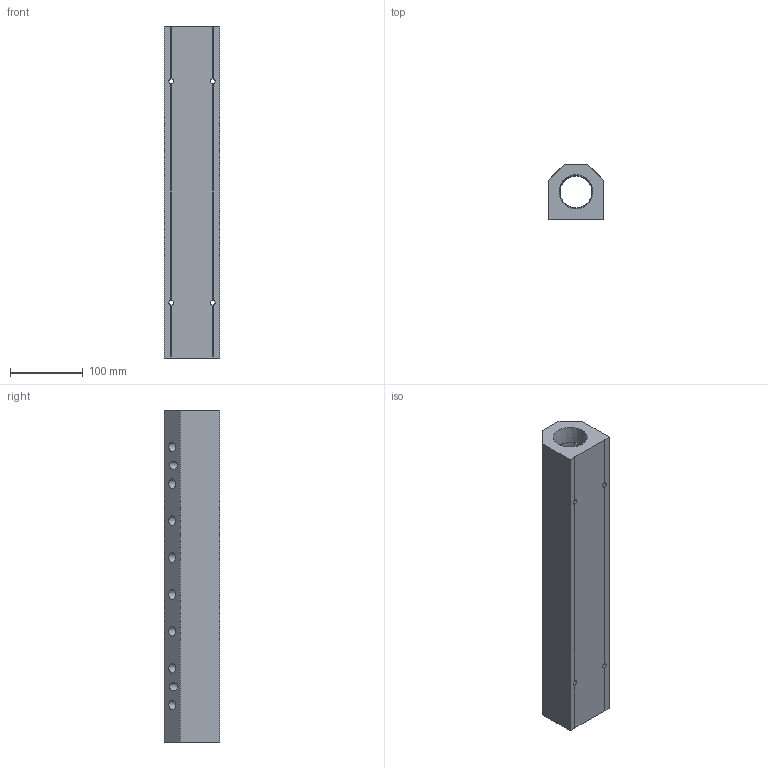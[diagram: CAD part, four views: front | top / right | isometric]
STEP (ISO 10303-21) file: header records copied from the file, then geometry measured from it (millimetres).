
FILE_DESCRIPTION (( 'STEP AP214' ), '1' );
FILE_NAME ('ALM8BD-N4N24-457R.step', '2022-02-07T07:39:57', ( '' ), ( '' ), 'SwSTEP 2.0', 'SolidWorks 2020', '' );
FILE_SCHEMA (( 'AUTOMOTIVE_DESIGN' ));
Length unit declared in the file: millimetre
Products named in the file (1): ALM8BD-N4N24-457R
Bounding box: 76.2 x 76.2 x 457 mm (x, y, z)
Volume: 1670003.5 mm3; surface area: 210426 mm2
Topology: 1 solids, 1 shells, 337 faces, 892 edges, 592 vertices
Faces by surface type: plane 228, bspline 55, cone 36, cylinder 18
Entity records: 18428 total; most frequent: CARTESIAN_POINT 7213, ORIENTED_EDGE 1784, DIRECTION 1368, EDGE_CURVE 892, VECTOR 666, LINE 666, VERTEX_POINT 592, EDGE_LOOP 414
